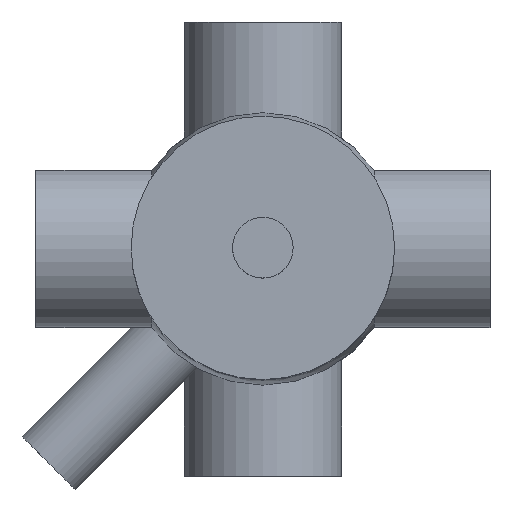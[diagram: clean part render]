
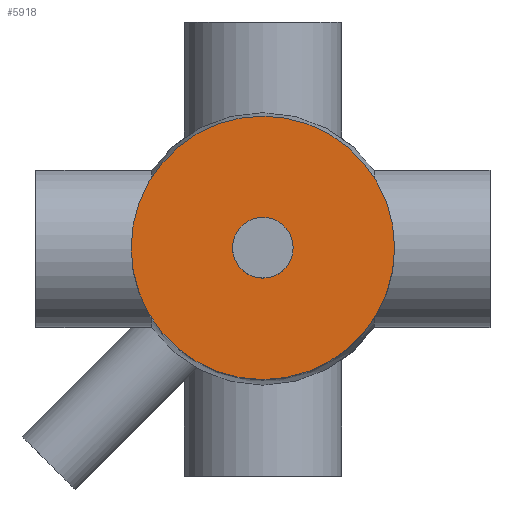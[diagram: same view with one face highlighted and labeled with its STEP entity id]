
A CAD part, top view. The second image highlights one B-rep face of the part: STEP entity #5918.
In plain terms, the highlighted planar face has unit normal (0, 0, 1).
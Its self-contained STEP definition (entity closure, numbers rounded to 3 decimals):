
#5834 = CYLINDRICAL_SURFACE('',#5835,87.);
#5835 = AXIS2_PLACEMENT_3D('',#5836,#5837,#5838);
#5836 = CARTESIAN_POINT('',(0.,0.,203.));
#5837 = DIRECTION('',(0.,0.,1.));
#5838 = DIRECTION('',(1.,0.,0.));
#5867 = EDGE_CURVE('',#5868,#5868,#5870,.T.);
#5868 = VERTEX_POINT('',#5869);
#5869 = CARTESIAN_POINT('',(87.,0.,405.6));
#5870 = SURFACE_CURVE('',#5871,(#5876,#5883),.PCURVE_S1.);
#5871 = CIRCLE('',#5872,87.);
#5872 = AXIS2_PLACEMENT_3D('',#5873,#5874,#5875);
#5873 = CARTESIAN_POINT('',(0.,0.,405.6));
#5874 = DIRECTION('',(0.,0.,1.));
#5875 = DIRECTION('',(1.,0.,0.));
#5876 = PCURVE('',#5834,#5877);
#5877 = DEFINITIONAL_REPRESENTATION('',(#5878),#5882);
#5878 = LINE('',#5879,#5880);
#5879 = CARTESIAN_POINT('',(0.,202.6));
#5880 = VECTOR('',#5881,1.);
#5881 = DIRECTION('',(1.,0.));
#5882 = ( GEOMETRIC_REPRESENTATION_CONTEXT(2) 
PARAMETRIC_REPRESENTATION_CONTEXT() REPRESENTATION_CONTEXT('2D SPACE',''
  ) );
#5883 = PCURVE('',#5884,#5889);
#5884 = PLANE('',#5885);
#5885 = AXIS2_PLACEMENT_3D('',#5886,#5887,#5888);
#5886 = CARTESIAN_POINT('',(0.,0.,405.6));
#5887 = DIRECTION('',(0.,0.,1.));
#5888 = DIRECTION('',(1.,0.,0.));
#5889 = DEFINITIONAL_REPRESENTATION('',(#5890),#5894);
#5890 = CIRCLE('',#5891,87.);
#5891 = AXIS2_PLACEMENT_2D('',#5892,#5893);
#5892 = CARTESIAN_POINT('',(0.,0.));
#5893 = DIRECTION('',(1.,0.));
#5894 = ( GEOMETRIC_REPRESENTATION_CONTEXT(2) 
PARAMETRIC_REPRESENTATION_CONTEXT() REPRESENTATION_CONTEXT('2D SPACE',''
  ) );
#5918 = ADVANCED_FACE('',(#5919,#5922),#5884,.T.);
#5919 = FACE_BOUND('',#5920,.T.);
#5920 = EDGE_LOOP('',(#5921));
#5921 = ORIENTED_EDGE('',*,*,#5867,.T.);
#5922 = FACE_BOUND('',#5923,.T.);
#5923 = EDGE_LOOP('',(#5924));
#5924 = ORIENTED_EDGE('',*,*,#5925,.F.);
#5925 = EDGE_CURVE('',#5926,#5926,#5928,.T.);
#5926 = VERTEX_POINT('',#5927);
#5927 = CARTESIAN_POINT('',(20.,0.,405.6));
#5928 = SURFACE_CURVE('',#5929,(#5934,#5941),.PCURVE_S1.);
#5929 = CIRCLE('',#5930,20.);
#5930 = AXIS2_PLACEMENT_3D('',#5931,#5932,#5933);
#5931 = CARTESIAN_POINT('',(0.,0.,405.6));
#5932 = DIRECTION('',(0.,0.,1.));
#5933 = DIRECTION('',(1.,0.,-0.));
#5934 = PCURVE('',#5884,#5935);
#5935 = DEFINITIONAL_REPRESENTATION('',(#5936),#5940);
#5936 = CIRCLE('',#5937,20.);
#5937 = AXIS2_PLACEMENT_2D('',#5938,#5939);
#5938 = CARTESIAN_POINT('',(0.,0.));
#5939 = DIRECTION('',(1.,0.));
#5940 = ( GEOMETRIC_REPRESENTATION_CONTEXT(2) 
PARAMETRIC_REPRESENTATION_CONTEXT() REPRESENTATION_CONTEXT('2D SPACE',''
  ) );
#5941 = PCURVE('',#5942,#5947);
#5942 = CYLINDRICAL_SURFACE('',#5943,20.);
#5943 = AXIS2_PLACEMENT_3D('',#5944,#5945,#5946);
#5944 = CARTESIAN_POINT('',(0.,0.,90.));
#5945 = DIRECTION('',(0.,0.,1.));
#5946 = DIRECTION('',(1.,0.,0.));
#5947 = DEFINITIONAL_REPRESENTATION('',(#5948),#5952);
#5948 = LINE('',#5949,#5950);
#5949 = CARTESIAN_POINT('',(0.,315.6));
#5950 = VECTOR('',#5951,1.);
#5951 = DIRECTION('',(1.,0.));
#5952 = ( GEOMETRIC_REPRESENTATION_CONTEXT(2) 
PARAMETRIC_REPRESENTATION_CONTEXT() REPRESENTATION_CONTEXT('2D SPACE',''
  ) );
